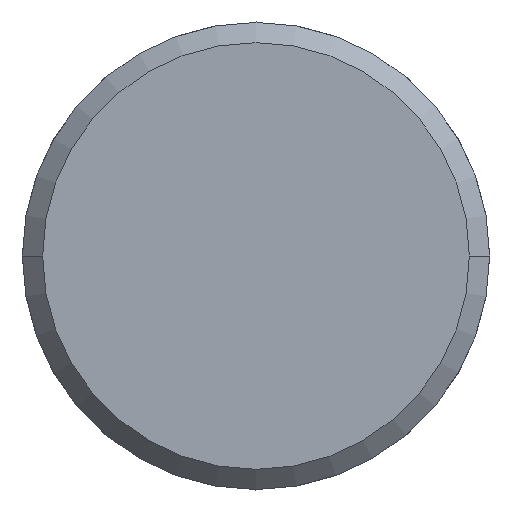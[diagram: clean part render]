
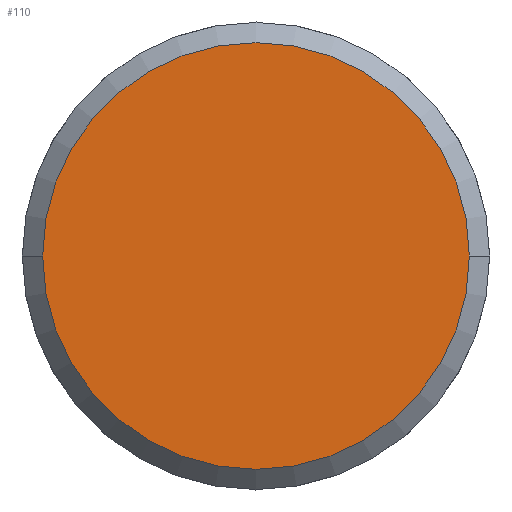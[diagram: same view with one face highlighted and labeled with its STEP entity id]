
A CAD part, front view. The second image highlights one B-rep face of the part: STEP entity #110.
In plain terms, the highlighted planar face has unit normal (0, -1, 0).
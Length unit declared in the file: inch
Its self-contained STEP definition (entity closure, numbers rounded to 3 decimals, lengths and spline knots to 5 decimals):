
#110 = ADVANCED_FACE ( 'NONE', ( #1307 ), #1061, .T. ) ;
#209 = EDGE_CURVE ( 'NONE', #466, #512, #1679, .T. ) ;
#212 = EDGE_CURVE ( 'NONE', #512, #466, #1680, .T. ) ;
#366 = AXIS2_PLACEMENT_3D ( 'NONE', #1082, #1083, #1085 ) ;
#466 = VERTEX_POINT ( 'NONE', #2289 ) ;
#512 = VERTEX_POINT ( 'NONE', #2334 ) ;
#539 = EDGE_LOOP ( 'NONE', ( #614, #615 ) ) ;
#614 = ORIENTED_EDGE ( 'NONE', *, *, #209, .F. ) ;
#615 = ORIENTED_EDGE ( 'NONE', *, *, #212, .F. ) ;
#1061 = PLANE ( 'NONE',  #366 ) ;
#1082 = CARTESIAN_POINT ( 'NONE',  ( -3.43327, -0.13718, 0. ) ) ;
#1083 = DIRECTION ( 'NONE',  ( 0., -1., 0. ) ) ;
#1085 = DIRECTION ( 'NONE',  ( 0., 0., -1. ) ) ;
#1307 = FACE_OUTER_BOUND ( 'NONE', #539, .T. ) ;
#1528 = AXIS2_PLACEMENT_3D ( 'NONE', #2007, #2008, #2009 ) ;
#1529 = AXIS2_PLACEMENT_3D ( 'NONE', #2012, #2013, #2014 ) ;
#1679 = CIRCLE ( 'NONE', #1528, 0.658 ) ;
#1680 = CIRCLE ( 'NONE', #1529, 0.658 ) ;
#2007 = CARTESIAN_POINT ( 'NONE',  ( -3.95777, -0.13718, 0. ) ) ;
#2008 = DIRECTION ( 'NONE',  ( 0., 1., 0. ) ) ;
#2009 = DIRECTION ( 'NONE',  ( -1., 0., 0. ) ) ;
#2012 = CARTESIAN_POINT ( 'NONE',  ( -3.95777, -0.13718, 0. ) ) ;
#2013 = DIRECTION ( 'NONE',  ( 0., 1., 0. ) ) ;
#2014 = DIRECTION ( 'NONE',  ( -1., 0., 0. ) ) ;
#2289 = CARTESIAN_POINT ( 'NONE',  ( -4.61577, -0.13718, 0. ) ) ;
#2334 = CARTESIAN_POINT ( 'NONE',  ( -3.29977, -0.13718, 0. ) ) ;
